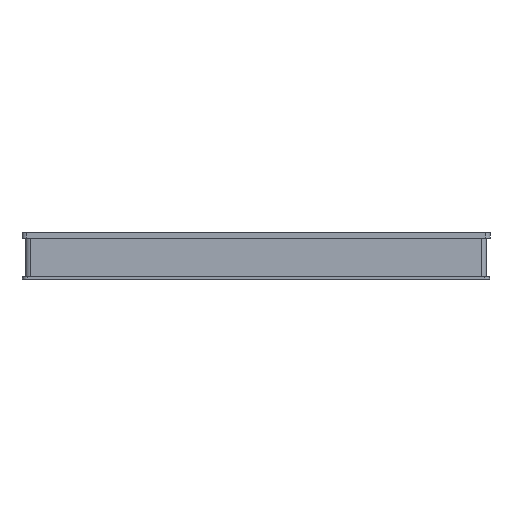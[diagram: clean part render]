
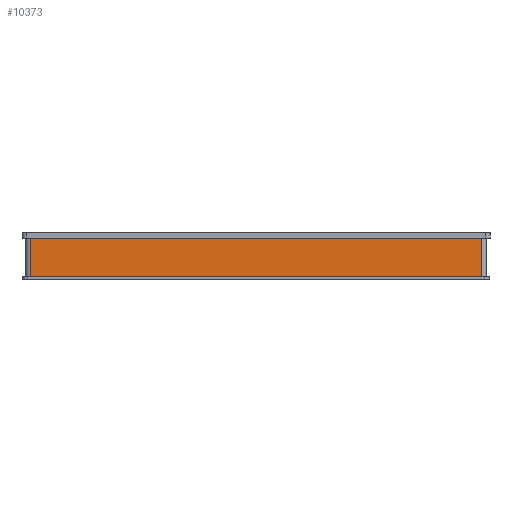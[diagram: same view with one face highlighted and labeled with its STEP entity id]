
A CAD part, front view. The second image highlights one B-rep face of the part: STEP entity #10373.
In plain terms, the highlighted planar face has unit normal (0, -1, 0).
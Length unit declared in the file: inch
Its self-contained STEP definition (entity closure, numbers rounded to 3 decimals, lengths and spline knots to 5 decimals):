
#51=LINE($,#15906,#163);
#68=LINE($,#18222,#180);
#70=LINE($,#18228,#182);
#71=LINE($,#18229,#183);
#163=VECTOR($,#12364,18.97638);
#180=VECTOR($,#15369,1.61417);
#182=VECTOR($,#15375,1.61417);
#183=VECTOR($,#15376,18.97638);
#671=PLANE($,#12033);
#2291=FACE_OUTER_BOUND($,#3887,.T.);
#3887=EDGE_LOOP($,(#8436,#8437,#8438,#8439));
#4900=VERTEX_POINT($,#15892);
#4906=VERTEX_POINT($,#15904);
#5675=VERTEX_POINT($,#18221);
#5677=VERTEX_POINT($,#18227);
#5844=EDGE_CURVE($,#4900,#4906,#51,.T.);
#6623=EDGE_CURVE($,#4900,#5675,#68,.T.);
#6626=EDGE_CURVE($,#5677,#4906,#70,.T.);
#6627=EDGE_CURVE($,#5675,#5677,#71,.T.);
#8436=ORIENTED_EDGE($,*,*,#6623,.F.);
#8437=ORIENTED_EDGE($,*,*,#5844,.T.);
#8438=ORIENTED_EDGE($,*,*,#6626,.F.);
#8439=ORIENTED_EDGE($,*,*,#6627,.F.);
#10373=ADVANCED_FACE($,(#2291),#671,.T.);
#12033=AXIS2_PLACEMENT_3D($,#18226,#15373,#15374);
#12364=DIRECTION($,(-1.,0.,0.));
#15369=DIRECTION($,(0.,0.,-1.));
#15373=DIRECTION('center_axis',(0.,-1.,0.));
#15374=DIRECTION('ref_axis',(0.,0.,-1.));
#15375=DIRECTION($,(0.,0.,1.));
#15376=DIRECTION($,(-1.,0.,0.));
#15892=CARTESIAN_POINT('',(11.33339,0.1378,1.73228));
#15904=CARTESIAN_POINT('',(-7.64299,0.1378,1.73228));
#15906=CARTESIAN_POINT($,(-7.83984,0.1378,1.73228));
#18221=CARTESIAN_POINT('',(11.33339,0.1378,0.11811));
#18222=CARTESIAN_POINT($,(11.33339,0.1378,0.11811));
#18226=CARTESIAN_POINT('Origin',(11.53024,0.1378,0.11811));
#18227=CARTESIAN_POINT('',(-7.64299,0.1378,0.11811));
#18228=CARTESIAN_POINT($,(-7.64299,0.1378,0.11811));
#18229=CARTESIAN_POINT($,(6.68772,0.1378,0.11811));
